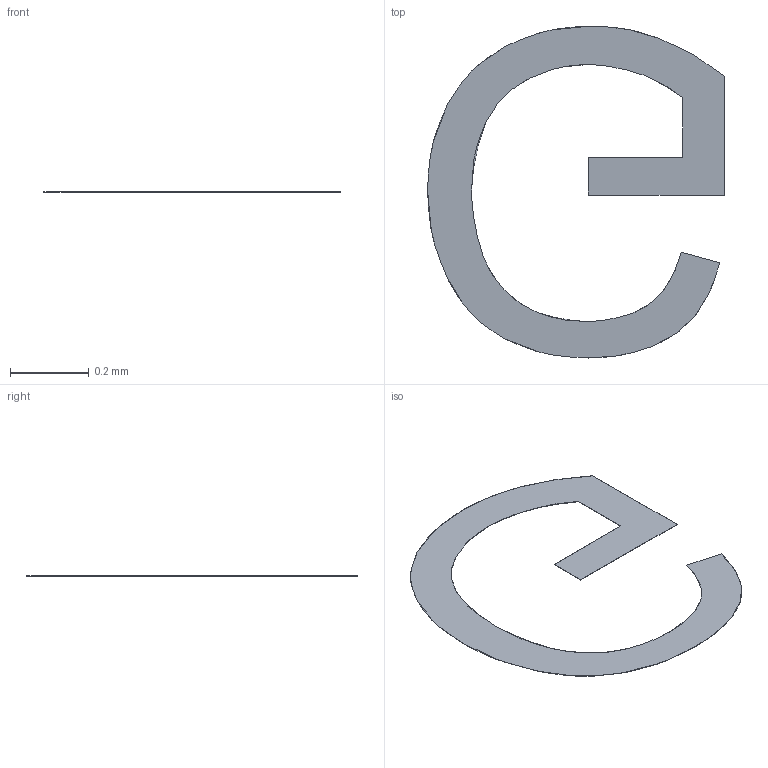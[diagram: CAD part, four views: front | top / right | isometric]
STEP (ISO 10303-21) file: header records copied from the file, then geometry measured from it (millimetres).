
FILE_DESCRIPTION(/* description */ ('STEP AP242 Edition 2','CAx-IF Rec.Pracs.---Representation and Presentation of Product Manufacturing Information (PMI)---4.0---2014-10-13','CAx-IF Rec.Pracs.---3D Tessellated Geometry---0.4---2014-09-14','2;1','CAx-IF Rec.Pracs.---User Defined Attributes---1.5---2016-08-15'),/* implementation_level */ '2;1');
FILE_NAME(/* name */ 'Drone Layout - Surface 361',/* time_stamp */ '2026-10-04T22:22:57Z',/* author */ (''),/* organization */ (''),/* preprocessor_version */ 'ST-DEVELOPER v20',/* originating_system */ 'ONSHAPE BY PTC INC, 1.221',/* authorisation */ ' ');
FILE_SCHEMA (('AP242_MANAGED_MODEL_BASED_3D_ENGINEERING_MIM_LF { 1 0 10303 442 3 1 4 }'));
Length unit declared in the file: metre
Products named in the file (1): VL53L0X:1__Body13
Bounding box: 0.76 x 0.84 x 0 mm (x, y, z)
Volume: 0 mm3; surface area: 0.5 mm2
Topology: 1 solids, 1 shells, 31 faces, 87 edges, 58 vertices
Faces by surface type: bspline 23, plane 8
Entity records: 1216 total; most frequent: CARTESIAN_POINT 560, ORIENTED_EDGE 174, EDGE_CURVE 87, DIRECTION 59, VERTEX_POINT 58, B_SPLINE_CURVE_WITH_KNOTS 46, LINE 41, VECTOR 41
